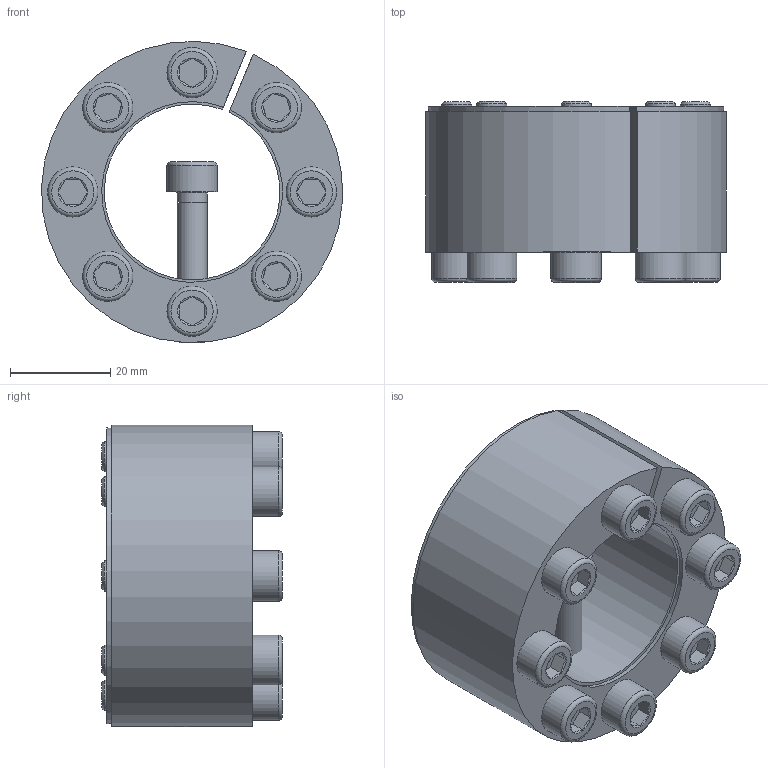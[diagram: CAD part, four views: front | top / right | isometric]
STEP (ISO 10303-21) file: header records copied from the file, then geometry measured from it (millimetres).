
FILE_DESCRIPTION( ( 'Unknown' ), '1' );
FILE_NAME( 'C:/Dokumente und Einstellungen/Sven/Desktop/homepage/cad - homepage/KBS61/KBS 61 - 35 x 60.stp', 'Unknown', ( 'Unknown' ), ( 'Unknown' ), 'XStep 1.0', 'Unknown', ' ' );
FILE_SCHEMA( ( 'automotive_design' ) );
Length unit declared in the file: millimetre
Products named in the file (3): Assem1; KBS 61 - 35 x 60; ISO EN DIN 4762 M6x30
Bounding box: 59.93 x 36 x 59.99 mm (x, y, z)
Volume: 104880.2 mm3; surface area: 42526.3 mm2
Topology: 11 solids, 11 shells, 261 faces, 499 edges, 296 vertices
Faces by surface type: plane 120, cone 67, cylinder 56, torus 18
Full cylindrical faces by diameter (mm): 5 x9, 6 x34, 10 x9
Entity records: 1378 total; most frequent: CARTESIAN_POINT 241, DIRECTION 212, ORIENTED_EDGE 150, AXIS2_PLACEMENT_3D 94, EDGE_LOOP 78, EDGE_CURVE 75, FACE_OUTER_BOUND 57, VERTEX_POINT 55
